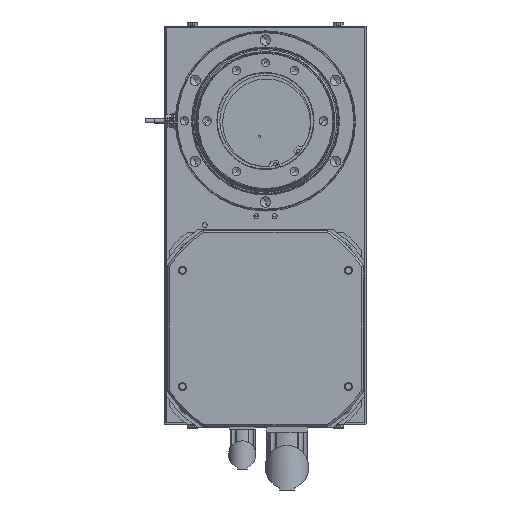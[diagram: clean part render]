
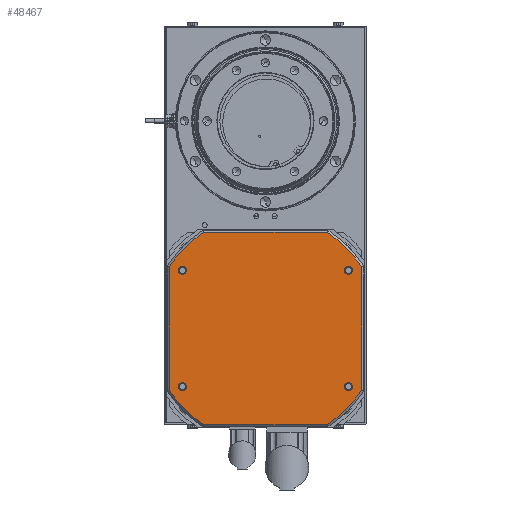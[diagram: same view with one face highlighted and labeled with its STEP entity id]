
A CAD part, front view. The second image highlights one B-rep face of the part: STEP entity #48467.
In plain terms, the highlighted planar face has unit normal (0, -1, 0).
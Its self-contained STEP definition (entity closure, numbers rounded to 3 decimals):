
#572 = DIRECTION ( 'NONE',  ( 0., 0., 1. ) ) ;
#638 = CIRCLE ( 'NONE', #1578, 4. ) ;
#708 = EDGE_CURVE ( 'NONE', #33169, #8173, #8047, .T. ) ;
#1123 = DIRECTION ( 'NONE',  ( 0., 0., 1. ) ) ;
#1332 = DIRECTION ( 'NONE',  ( 0., -1., 0. ) ) ;
#1484 = ORIENTED_EDGE ( 'NONE', *, *, #30815, .F. ) ;
#1578 = AXIS2_PLACEMENT_3D ( 'NONE', #43322, #9550, #572 ) ;
#1606 = LINE ( 'NONE', #51626, #52959 ) ;
#2131 = FACE_BOUND ( 'NONE', #5627, .T. ) ;
#2201 = EDGE_CURVE ( 'NONE', #8173, #33169, #46491, .T. ) ;
#2369 = ORIENTED_EDGE ( 'NONE', *, *, #28925, .T. ) ;
#2431 = CARTESIAN_POINT ( 'NONE',  ( 97.207, 526.5, -393.75 ) ) ;
#2468 = DIRECTION ( 'NONE',  ( 0., -1., 0. ) ) ;
#2617 = EDGE_CURVE ( 'NONE', #42518, #14941, #26985, .T. ) ;
#3185 = VERTEX_POINT ( 'NONE', #52123 ) ;
#3737 = VERTEX_POINT ( 'NONE', #41194 ) ;
#4685 = EDGE_LOOP ( 'NONE', ( #28609, #7661 ) ) ;
#4717 = DIRECTION ( 'NONE',  ( 0., 0., 1. ) ) ;
#4755 = EDGE_CURVE ( 'NONE', #29491, #5862, #25662, .T. ) ;
#4786 = CARTESIAN_POINT ( 'NONE',  ( 181.75, 526.5, -352.25 ) ) ;
#5093 = VERTEX_POINT ( 'NONE', #35984 ) ;
#5384 = EDGE_CURVE ( 'NONE', #43884, #49140, #55032, .T. ) ;
#5627 = EDGE_LOOP ( 'NONE', ( #1484, #52786 ) ) ;
#5705 = EDGE_CURVE ( 'NONE', #49140, #43884, #25697, .T. ) ;
#5817 = DIRECTION ( 'NONE',  ( 0., -1., 0. ) ) ;
#5862 = VERTEX_POINT ( 'NONE', #35990 ) ;
#6118 = ORIENTED_EDGE ( 'NONE', *, *, #12515, .T. ) ;
#6592 = FACE_BOUND ( 'NONE', #23378, .T. ) ;
#7145 = PLANE ( 'NONE',  #19066 ) ;
#7505 = ORIENTED_EDGE ( 'NONE', *, *, #17668, .T. ) ;
#7599 = DIRECTION ( 'NONE',  ( 0., -1., 0. ) ) ;
#7661 = ORIENTED_EDGE ( 'NONE', *, *, #43751, .F. ) ;
#7713 = CARTESIAN_POINT ( 'NONE',  ( 4.75, 526.5, -296.207 ) ) ;
#7863 = EDGE_CURVE ( 'NONE', #17654, #34774, #25581, .T. ) ;
#8047 = CIRCLE ( 'NONE', #55263, 4. ) ;
#8167 = DIRECTION ( 'NONE',  ( 0., 0., 1. ) ) ;
#8173 = VERTEX_POINT ( 'NONE', #33419 ) ;
#9550 = DIRECTION ( 'NONE',  ( 0., -1., 0. ) ) ;
#10044 = DIRECTION ( 'NONE',  ( 0., 0., 1. ) ) ;
#12286 = AXIS2_PLACEMENT_3D ( 'NONE', #52252, #39377, #1123 ) ;
#12510 = LINE ( 'NONE', #7713, #18182 ) ;
#12515 = EDGE_CURVE ( 'NONE', #17182, #50633, #44618, .T. ) ;
#12881 = CARTESIAN_POINT ( 'NONE',  ( 194.75, 526.5, -237.592 ) ) ;
#12909 = CARTESIAN_POINT ( 'NONE',  ( 17.75, 526.5, -241.25 ) ) ;
#13715 = ORIENTED_EDGE ( 'NONE', *, *, #2201, .F. ) ;
#14941 = VERTEX_POINT ( 'NONE', #41914 ) ;
#15031 = FACE_BOUND ( 'NONE', #4685, .T. ) ;
#15136 = CIRCLE ( 'NONE', #47182, 4. ) ;
#15647 = DIRECTION ( 'NONE',  ( 0., -1., 0. ) ) ;
#16617 = DIRECTION ( 'NONE',  ( 0., -1., 0. ) ) ;
#17182 = VERTEX_POINT ( 'NONE', #51748 ) ;
#17654 = VERTEX_POINT ( 'NONE', #35439 ) ;
#17668 = EDGE_CURVE ( 'NONE', #14941, #29491, #1606, .T. ) ;
#18117 = EDGE_CURVE ( 'NONE', #42716, #17182, #44088, .T. ) ;
#18182 = VECTOR ( 'NONE', #33451, 1000. ) ;
#18456 = AXIS2_PLACEMENT_3D ( 'NONE', #33918, #16617, #50063 ) ;
#18735 = DIRECTION ( 'NONE',  ( -1., 0., 0. ) ) ;
#19058 = CIRCLE ( 'NONE', #26144, 4. ) ;
#19066 = AXIS2_PLACEMENT_3D ( 'NONE', #37012, #40110, #36760 ) ;
#19174 = AXIS2_PLACEMENT_3D ( 'NONE', #53701, #7599, #49508 ) ;
#19311 = DIRECTION ( 'NONE',  ( 0., 0., 1. ) ) ;
#19541 = DIRECTION ( 'NONE',  ( 1., 0., 0. ) ) ;
#19677 = ORIENTED_EDGE ( 'NONE', *, *, #5384, .F. ) ;
#21414 = EDGE_CURVE ( 'NONE', #5862, #42716, #12510, .T. ) ;
#23378 = EDGE_LOOP ( 'NONE', ( #40534, #13715 ) ) ;
#23390 = FACE_BOUND ( 'NONE', #32970, .T. ) ;
#24073 = CIRCLE ( 'NONE', #38292, 116.5 ) ;
#24199 = EDGE_CURVE ( 'NONE', #3185, #42518, #33349, .T. ) ;
#24881 = ORIENTED_EDGE ( 'NONE', *, *, #4755, .T. ) ;
#25581 = CIRCLE ( 'NONE', #30918, 4. ) ;
#25662 = CIRCLE ( 'NONE', #18456, 116.5 ) ;
#25697 = CIRCLE ( 'NONE', #27490, 4. ) ;
#25793 = VECTOR ( 'NONE', #19541, 1000. ) ;
#26144 = AXIS2_PLACEMENT_3D ( 'NONE', #12909, #51395, #26271 ) ;
#26271 = DIRECTION ( 'NONE',  ( 0., 0., 1. ) ) ;
#26985 = CIRCLE ( 'NONE', #35910, 116.5 ) ;
#27490 = AXIS2_PLACEMENT_3D ( 'NONE', #32884, #41496, #41205 ) ;
#27810 = AXIS2_PLACEMENT_3D ( 'NONE', #39890, #5817, #4717 ) ;
#28609 = ORIENTED_EDGE ( 'NONE', *, *, #38212, .F. ) ;
#28925 = EDGE_CURVE ( 'NONE', #50633, #3185, #24073, .T. ) ;
#29360 = CARTESIAN_POINT ( 'NONE',  ( 17.75, 526.5, -360.25 ) ) ;
#29491 = VERTEX_POINT ( 'NONE', #37826 ) ;
#29689 = CARTESIAN_POINT ( 'NONE',  ( 194.75, 526.5, -296.207 ) ) ;
#30815 = EDGE_CURVE ( 'NONE', #34774, #17654, #19058, .T. ) ;
#30918 = AXIS2_PLACEMENT_3D ( 'NONE', #30980, #1332, #35724 ) ;
#30980 = CARTESIAN_POINT ( 'NONE',  ( 17.75, 526.5, -241.25 ) ) ;
#32884 = CARTESIAN_POINT ( 'NONE',  ( 17.75, 526.5, -356.25 ) ) ;
#32970 = EDGE_LOOP ( 'NONE', ( #46617, #19677 ) ) ;
#33169 = VERTEX_POINT ( 'NONE', #4786 ) ;
#33349 = LINE ( 'NONE', #29689, #44396 ) ;
#33352 = DIRECTION ( 'NONE',  ( 0., 0., 1. ) ) ;
#33419 = CARTESIAN_POINT ( 'NONE',  ( 181.75, 526.5, -360.25 ) ) ;
#33451 = DIRECTION ( 'NONE',  ( 0., 0., -1. ) ) ;
#33918 = CARTESIAN_POINT ( 'NONE',  ( 102.293, 526.5, -301.293 ) ) ;
#34334 = ORIENTED_EDGE ( 'NONE', *, *, #24199, .T. ) ;
#34774 = VERTEX_POINT ( 'NONE', #50408 ) ;
#34978 = ORIENTED_EDGE ( 'NONE', *, *, #21414, .T. ) ;
#35041 = DIRECTION ( 'NONE',  ( 0., -1., 0. ) ) ;
#35439 = CARTESIAN_POINT ( 'NONE',  ( 17.75, 526.5, -245.25 ) ) ;
#35724 = DIRECTION ( 'NONE',  ( 0., 0., 1. ) ) ;
#35910 = AXIS2_PLACEMENT_3D ( 'NONE', #42577, #35041, #38634 ) ;
#35984 = CARTESIAN_POINT ( 'NONE',  ( 181.75, 526.5, -237.25 ) ) ;
#35990 = CARTESIAN_POINT ( 'NONE',  ( 4.75, 526.5, -237.592 ) ) ;
#36760 = DIRECTION ( 'NONE',  ( 0., 0., 1. ) ) ;
#37012 = CARTESIAN_POINT ( 'NONE',  ( 97.207, 526.5, -296.207 ) ) ;
#37758 = DIRECTION ( 'NONE',  ( 0., -1., 0. ) ) ;
#37826 = CARTESIAN_POINT ( 'NONE',  ( 38.592, 526.5, -203.75 ) ) ;
#37913 = EDGE_LOOP ( 'NONE', ( #51142, #6118, #2369, #34334, #40609, #7505, #24881, #34978 ) ) ;
#38212 = EDGE_CURVE ( 'NONE', #5093, #3737, #15136, .T. ) ;
#38292 = AXIS2_PLACEMENT_3D ( 'NONE', #44651, #2468, #10044 ) ;
#38634 = DIRECTION ( 'NONE',  ( 0., 0., 1. ) ) ;
#39377 = DIRECTION ( 'NONE',  ( 0., -1., 0. ) ) ;
#39890 = CARTESIAN_POINT ( 'NONE',  ( 181.75, 526.5, -356.25 ) ) ;
#40110 = DIRECTION ( 'NONE',  ( 0., 1., 0. ) ) ;
#40534 = ORIENTED_EDGE ( 'NONE', *, *, #708, .F. ) ;
#40609 = ORIENTED_EDGE ( 'NONE', *, *, #2617, .T. ) ;
#40771 = CARTESIAN_POINT ( 'NONE',  ( 160.908, 526.5, -393.75 ) ) ;
#41194 = CARTESIAN_POINT ( 'NONE',  ( 181.75, 526.5, -245.25 ) ) ;
#41205 = DIRECTION ( 'NONE',  ( 0., 0., 1. ) ) ;
#41496 = DIRECTION ( 'NONE',  ( 0., -1., 0. ) ) ;
#41914 = CARTESIAN_POINT ( 'NONE',  ( 160.908, 526.5, -203.75 ) ) ;
#42518 = VERTEX_POINT ( 'NONE', #12881 ) ;
#42577 = CARTESIAN_POINT ( 'NONE',  ( 97.207, 526.5, -301.293 ) ) ;
#42716 = VERTEX_POINT ( 'NONE', #49375 ) ;
#43322 = CARTESIAN_POINT ( 'NONE',  ( 181.75, 526.5, -241.25 ) ) ;
#43751 = EDGE_CURVE ( 'NONE', #3737, #5093, #638, .T. ) ;
#43884 = VERTEX_POINT ( 'NONE', #29360 ) ;
#44088 = CIRCLE ( 'NONE', #19174, 116.5 ) ;
#44396 = VECTOR ( 'NONE', #8167, 1000. ) ;
#44618 = LINE ( 'NONE', #2431, #25793 ) ;
#44651 = CARTESIAN_POINT ( 'NONE',  ( 97.207, 526.5, -296.207 ) ) ;
#44878 = FACE_OUTER_BOUND ( 'NONE', #37913, .T. ) ;
#45230 = CARTESIAN_POINT ( 'NONE',  ( 181.75, 526.5, -241.25 ) ) ;
#46491 = CIRCLE ( 'NONE', #27810, 4. ) ;
#46617 = ORIENTED_EDGE ( 'NONE', *, *, #5705, .F. ) ;
#47182 = AXIS2_PLACEMENT_3D ( 'NONE', #45230, #15647, #19311 ) ;
#48467 = ADVANCED_FACE ( 'NONE', ( #44878, #2131, #15031, #6592, #23390 ), #7145, .F. ) ;
#49140 = VERTEX_POINT ( 'NONE', #54295 ) ;
#49375 = CARTESIAN_POINT ( 'NONE',  ( 4.75, 526.5, -359.908 ) ) ;
#49508 = DIRECTION ( 'NONE',  ( 0., 0., 1. ) ) ;
#50058 = CARTESIAN_POINT ( 'NONE',  ( 181.75, 526.5, -356.25 ) ) ;
#50063 = DIRECTION ( 'NONE',  ( 0., 0., 1. ) ) ;
#50408 = CARTESIAN_POINT ( 'NONE',  ( 17.75, 526.5, -237.25 ) ) ;
#50633 = VERTEX_POINT ( 'NONE', #40771 ) ;
#51142 = ORIENTED_EDGE ( 'NONE', *, *, #18117, .T. ) ;
#51395 = DIRECTION ( 'NONE',  ( 0., -1., 0. ) ) ;
#51626 = CARTESIAN_POINT ( 'NONE',  ( 97.207, 526.5, -203.75 ) ) ;
#51748 = CARTESIAN_POINT ( 'NONE',  ( 38.592, 526.5, -393.75 ) ) ;
#52123 = CARTESIAN_POINT ( 'NONE',  ( 194.75, 526.5, -359.908 ) ) ;
#52252 = CARTESIAN_POINT ( 'NONE',  ( 17.75, 526.5, -356.25 ) ) ;
#52786 = ORIENTED_EDGE ( 'NONE', *, *, #7863, .F. ) ;
#52959 = VECTOR ( 'NONE', #18735, 1000. ) ;
#53701 = CARTESIAN_POINT ( 'NONE',  ( 102.293, 526.5, -296.207 ) ) ;
#54295 = CARTESIAN_POINT ( 'NONE',  ( 17.75, 526.5, -352.25 ) ) ;
#55032 = CIRCLE ( 'NONE', #12286, 4. ) ;
#55263 = AXIS2_PLACEMENT_3D ( 'NONE', #50058, #37758, #33352 ) ;
